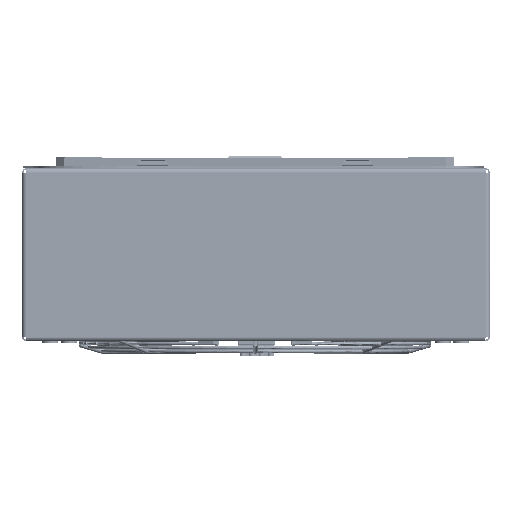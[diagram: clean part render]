
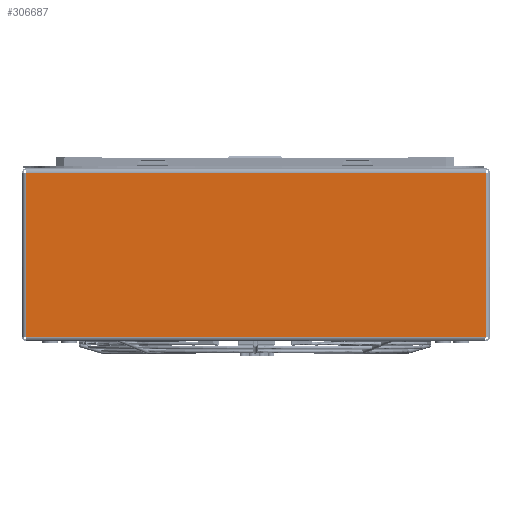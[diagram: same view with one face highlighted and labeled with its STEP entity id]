
A CAD part, front view. The second image highlights one B-rep face of the part: STEP entity #306687.
In plain terms, the highlighted planar face has unit normal (0, -1, 0).
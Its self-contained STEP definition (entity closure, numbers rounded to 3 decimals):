
#20162 = VECTOR ( 'NONE', #77901, 1000. ) ;
#39164 = DIRECTION ( 'NONE',  ( 0., 0., 1. ) ) ;
#62890 = CARTESIAN_POINT ( 'NONE',  ( -0.18, -182.118, 443.388 ) ) ;
#77901 = DIRECTION ( 'NONE',  ( 1., 0., 0. ) ) ;
#81101 = VERTEX_POINT ( 'NONE', #659786 ) ;
#82017 = FACE_OUTER_BOUND ( 'NONE', #214108, .T. ) ;
#86453 = CARTESIAN_POINT ( 'NONE',  ( -185.18, -182.118, 579.142 ) ) ;
#107024 = VECTOR ( 'NONE', #351536, 1000. ) ;
#192203 = LINE ( 'NONE', #356570, #20162 ) ;
#202753 = VERTEX_POINT ( 'NONE', #483559 ) ;
#214108 = EDGE_LOOP ( 'NONE', ( #494741, #659657, #463899, #624097 ) ) ;
#221950 = VERTEX_POINT ( 'NONE', #471624 ) ;
#239619 = DIRECTION ( 'NONE',  ( 0., 0., 1. ) ) ;
#282066 = VECTOR ( 'NONE', #39164, 1000. ) ;
#306687 = ADVANCED_FACE ( 'NONE', ( #82017 ), #353700, .F. ) ;
#323493 = LINE ( 'NONE', #62890, #107024 ) ;
#351536 = DIRECTION ( 'NONE',  ( 1., 0., 0. ) ) ;
#353700 = PLANE ( 'NONE',  #722681 ) ;
#356570 = CARTESIAN_POINT ( 'NONE',  ( 184.82, -182.118, 575.642 ) ) ;
#363371 = VERTEX_POINT ( 'NONE', #583932 ) ;
#372581 = DIRECTION ( 'NONE',  ( 0., 0., -1. ) ) ;
#378847 = LINE ( 'NONE', #86453, #713308 ) ;
#411831 = CARTESIAN_POINT ( 'NONE',  ( -0.18, -182.118, 579.142 ) ) ;
#445351 = EDGE_CURVE ( 'NONE', #363371, #221950, #462812, .T. ) ;
#462812 = LINE ( 'NONE', #681631, #282066 ) ;
#463899 = ORIENTED_EDGE ( 'NONE', *, *, #665673, .T. ) ;
#471624 = CARTESIAN_POINT ( 'NONE',  ( 184.82, -182.118, 575.642 ) ) ;
#483559 = CARTESIAN_POINT ( 'NONE',  ( -185.18, -182.118, 575.642 ) ) ;
#494741 = ORIENTED_EDGE ( 'NONE', *, *, #523093, .F. ) ;
#523093 = EDGE_CURVE ( 'NONE', #202753, #221950, #192203, .T. ) ;
#583932 = CARTESIAN_POINT ( 'NONE',  ( 184.82, -182.118, 443.388 ) ) ;
#624097 = ORIENTED_EDGE ( 'NONE', *, *, #445351, .T. ) ;
#659657 = ORIENTED_EDGE ( 'NONE', *, *, #704266, .T. ) ;
#659786 = CARTESIAN_POINT ( 'NONE',  ( -185.18, -182.118, 443.388 ) ) ;
#665673 = EDGE_CURVE ( 'NONE', #81101, #363371, #323493, .T. ) ;
#681631 = CARTESIAN_POINT ( 'NONE',  ( 184.82, -182.118, 579.142 ) ) ;
#704266 = EDGE_CURVE ( 'NONE', #202753, #81101, #378847, .T. ) ;
#707552 = DIRECTION ( 'NONE',  ( 0., 1., 0. ) ) ;
#713308 = VECTOR ( 'NONE', #372581, 1000. ) ;
#722681 = AXIS2_PLACEMENT_3D ( 'NONE', #411831, #707552, #239619 ) ;
